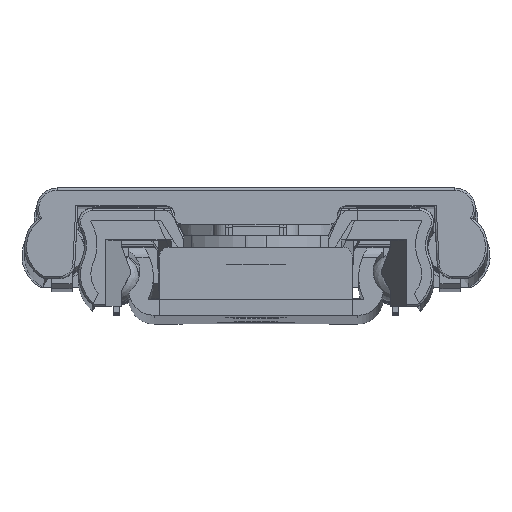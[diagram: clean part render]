
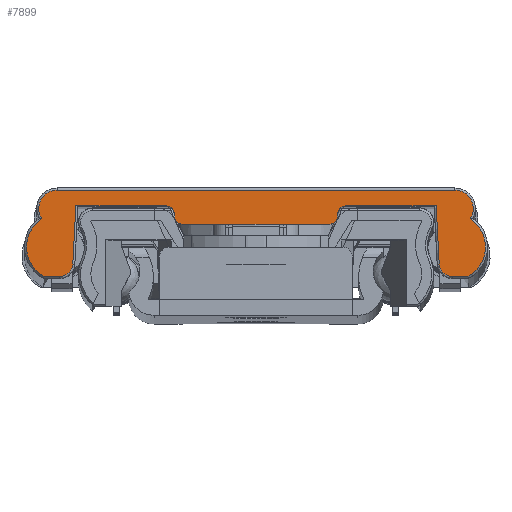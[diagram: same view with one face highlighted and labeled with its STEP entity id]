
A CAD part, top view. The second image highlights one B-rep face of the part: STEP entity #7899.
In plain terms, the highlighted planar face has unit normal (0, 0, 1) as drawn and (0, 0, -1) by its records, which use the part's own axes.
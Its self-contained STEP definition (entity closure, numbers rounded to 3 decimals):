
#7277=CARTESIAN_POINT('',(38.9,-13.718,0.0));
#7278=VERTEX_POINT('',#7277);
#7296=CARTESIAN_POINT('',(38.6,-8.,0.0));
#7297=VERTEX_POINT('',#7296);
#7305=CARTESIAN_POINT('',(38.6,-8.,0.0));
#7306=DIRECTION('',(0.052,-0.999,0.0));
#7307=VECTOR('',#7306,5.726);
#7308=LINE('',#7305,#7307);
#7309=EDGE_CURVE('',#7297,#7278,#7308,.T.);
#7319=CARTESIAN_POINT('',(40.198,-14.95,0.0));
#7320=VERTEX_POINT('',#7319);
#7338=CARTESIAN_POINT('',(40.198,-13.65,0.0));
#7339=DIRECTION('',(0.0,0.0,1.));
#7340=DIRECTION('',(-0.688,-0.725,0.0));
#7341=AXIS2_PLACEMENT_3D('',#7338,#7339,#7340);
#7342=CIRCLE('',#7341,1.3);
#7343=EDGE_CURVE('',#7278,#7320,#7342,.T.);
#7360=CARTESIAN_POINT('',(41.725,-14.95,0.0));
#7361=VERTEX_POINT('',#7360);
#7362=CARTESIAN_POINT('',(40.198,-14.95,0.0));
#7363=DIRECTION('',(1.0,0.0,0.0));
#7364=VECTOR('',#7363,1.527);
#7365=LINE('',#7362,#7364);
#7366=EDGE_CURVE('',#7320,#7361,#7365,.T.);
#7393=CARTESIAN_POINT('',(41.932,-9.272,0.0));
#7394=VERTEX_POINT('',#7393);
#7395=CARTESIAN_POINT('',(40.15,-12.05,0.0));
#7396=DIRECTION('',(0.0,0.0,1.));
#7397=DIRECTION('',(0.997,-0.072,0.0));
#7398=AXIS2_PLACEMENT_3D('',#7395,#7396,#7397);
#7399=CIRCLE('',#7398,3.3);
#7400=EDGE_CURVE('',#7361,#7394,#7399,.T.);
#7429=CARTESIAN_POINT('',(40.45,-6.45,0.0));
#7430=VERTEX_POINT('',#7429);
#7440=CARTESIAN_POINT('',(40.45,-8.25,0.0));
#7441=DIRECTION('',(0.0,0.0,1.0));
#7442=DIRECTION('',(0.861,0.509,0.0));
#7443=AXIS2_PLACEMENT_3D('',#7440,#7441,#7442);
#7444=CIRCLE('',#7443,1.8);
#7445=EDGE_CURVE('',#7394,#7430,#7444,.T.);
#7455=CARTESIAN_POINT('',(1.35,-6.45,0.0));
#7456=VERTEX_POINT('',#7455);
#7466=CARTESIAN_POINT('',(40.45,-6.45,0.0));
#7467=DIRECTION('',(-1.0,0.0,0.0));
#7468=VECTOR('',#7467,39.1);
#7469=LINE('',#7466,#7468);
#7470=EDGE_CURVE('',#7430,#7456,#7469,.T.);
#7490=CARTESIAN_POINT('',(-0.131,-9.272,0.0));
#7491=VERTEX_POINT('',#7490);
#7492=CARTESIAN_POINT('',(1.35,-8.25,0.0));
#7493=DIRECTION('',(0.0,0.0,1.0));
#7494=DIRECTION('',(-0.861,0.509,0.0));
#7495=AXIS2_PLACEMENT_3D('',#7492,#7493,#7494);
#7496=CIRCLE('',#7495,1.8);
#7497=EDGE_CURVE('',#7456,#7491,#7496,.T.);
#7524=CARTESIAN_POINT('',(0.075,-14.95,0.0));
#7525=VERTEX_POINT('',#7524);
#7526=CARTESIAN_POINT('',(1.65,-12.05,0.0));
#7527=DIRECTION('',(0.0,0.0,1.0));
#7528=DIRECTION('',(-0.997,-0.072,0.0));
#7529=AXIS2_PLACEMENT_3D('',#7526,#7527,#7528);
#7530=CIRCLE('',#7529,3.3);
#7531=EDGE_CURVE('',#7491,#7525,#7530,.T.);
#7566=CARTESIAN_POINT('',(1.602,-14.95,0.0));
#7567=VERTEX_POINT('',#7566);
#7577=CARTESIAN_POINT('',(0.075,-14.95,0.0));
#7578=DIRECTION('',(1.0,0.0,0.0));
#7579=VECTOR('',#7578,1.527);
#7580=LINE('',#7577,#7579);
#7581=EDGE_CURVE('',#7525,#7567,#7580,.T.);
#7591=CARTESIAN_POINT('',(2.9,-13.718,0.0));
#7592=VERTEX_POINT('',#7591);
#7610=CARTESIAN_POINT('',(1.602,-13.65,0.0));
#7611=DIRECTION('',(0.0,0.0,1.0));
#7612=DIRECTION('',(0.688,-0.725,0.0));
#7613=AXIS2_PLACEMENT_3D('',#7610,#7611,#7612);
#7614=CIRCLE('',#7613,1.3);
#7615=EDGE_CURVE('',#7567,#7592,#7614,.T.);
#7625=CARTESIAN_POINT('',(3.2,-8.,0.0));
#7626=VERTEX_POINT('',#7625);
#7643=CARTESIAN_POINT('',(2.9,-13.718,0.0));
#7644=DIRECTION('',(0.052,0.999,0.0));
#7645=VECTOR('',#7644,5.726);
#7646=LINE('',#7643,#7645);
#7647=EDGE_CURVE('',#7592,#7626,#7646,.T.);
#7774=CARTESIAN_POINT('',(28.1,-9.8,0.0));
#7775=VERTEX_POINT('',#7774);
#7782=CARTESIAN_POINT('',(28.9,-9.,0.0));
#7783=VERTEX_POINT('',#7782);
#7784=CARTESIAN_POINT('',(28.1,-9.0,0.0));
#7785=DIRECTION('',(0.0,0.0,1.0));
#7786=DIRECTION('',(0.707,-0.707,0.0));
#7787=AXIS2_PLACEMENT_3D('',#7784,#7785,#7786);
#7788=CIRCLE('',#7787,0.8);
#7789=EDGE_CURVE('',#7775,#7783,#7788,.T.);
#7806=CARTESIAN_POINT('',(28.9,-8.8,0.0));
#7807=VERTEX_POINT('',#7806);
#7808=CARTESIAN_POINT('',(28.9,-9.,0.0));
#7809=DIRECTION('',(0.0,1.0,0.0));
#7810=VECTOR('',#7809,0.2);
#7811=LINE('',#7808,#7810);
#7812=EDGE_CURVE('',#7783,#7807,#7811,.T.);
#7824=CARTESIAN_POINT('',(20.9,-8.942,0.0));
#7825=DIRECTION('',(0.0,0.0,1.0));
#7826=DIRECTION('',(1.0,0.0,0.0));
#7827=AXIS2_PLACEMENT_3D('',#7824,#7825,#7826);
#7828=PLANE('',#7827);
#7829=CARTESIAN_POINT('',(29.7,-8.,0.0));
#7830=VERTEX_POINT('',#7829);
#7831=CARTESIAN_POINT('',(29.7,-8.,0.0));
#7832=DIRECTION('',(1.0,0.0,0.0));
#7833=VECTOR('',#7832,8.9);
#7834=LINE('',#7831,#7833);
#7835=EDGE_CURVE('',#7830,#7297,#7834,.T.);
#7836=ORIENTED_EDGE('',*,*,#7835,.F.);
#7837=CARTESIAN_POINT('',(29.7,-8.8,0.0));
#7838=DIRECTION('',(0.0,0.0,-1.0));
#7839=DIRECTION('',(-0.707,0.707,0.0));
#7840=AXIS2_PLACEMENT_3D('',#7837,#7838,#7839);
#7841=CIRCLE('',#7840,0.8);
#7842=EDGE_CURVE('',#7807,#7830,#7841,.T.);
#7843=ORIENTED_EDGE('',*,*,#7842,.F.);
#7844=ORIENTED_EDGE('',*,*,#7812,.F.);
#7845=ORIENTED_EDGE('',*,*,#7789,.F.);
#7846=CARTESIAN_POINT('',(13.7,-9.8,0.0));
#7847=VERTEX_POINT('',#7846);
#7848=CARTESIAN_POINT('',(13.7,-9.8,0.0));
#7849=DIRECTION('',(1.0,0.0,0.0));
#7850=VECTOR('',#7849,14.4);
#7851=LINE('',#7848,#7850);
#7852=EDGE_CURVE('',#7847,#7775,#7851,.T.);
#7853=ORIENTED_EDGE('',*,*,#7852,.F.);
#7854=CARTESIAN_POINT('',(12.9,-9.,0.0));
#7855=VERTEX_POINT('',#7854);
#7856=CARTESIAN_POINT('',(13.7,-9.,0.0));
#7857=DIRECTION('',(0.0,0.0,1.));
#7858=DIRECTION('',(-0.707,-0.707,0.0));
#7859=AXIS2_PLACEMENT_3D('',#7856,#7857,#7858);
#7860=CIRCLE('',#7859,0.8);
#7861=EDGE_CURVE('',#7855,#7847,#7860,.T.);
#7862=ORIENTED_EDGE('',*,*,#7861,.F.);
#7863=CARTESIAN_POINT('',(12.9,-8.8,0.0));
#7864=VERTEX_POINT('',#7863);
#7865=CARTESIAN_POINT('',(12.9,-8.8,0.0));
#7866=DIRECTION('',(0.0,-1.0,0.0));
#7867=VECTOR('',#7866,0.2);
#7868=LINE('',#7865,#7867);
#7869=EDGE_CURVE('',#7864,#7855,#7868,.T.);
#7870=ORIENTED_EDGE('',*,*,#7869,.F.);
#7871=CARTESIAN_POINT('',(12.1,-8.0,0.0));
#7872=VERTEX_POINT('',#7871);
#7873=CARTESIAN_POINT('',(12.1,-8.8,0.0));
#7874=DIRECTION('',(0.0,0.0,-1.0));
#7875=DIRECTION('',(0.707,0.707,0.0));
#7876=AXIS2_PLACEMENT_3D('',#7873,#7874,#7875);
#7877=CIRCLE('',#7876,0.8);
#7878=EDGE_CURVE('',#7872,#7864,#7877,.T.);
#7879=ORIENTED_EDGE('',*,*,#7878,.F.);
#7880=CARTESIAN_POINT('',(3.2,-8.,0.0));
#7881=DIRECTION('',(1.0,0.0,0.0));
#7882=VECTOR('',#7881,8.9);
#7883=LINE('',#7880,#7882);
#7884=EDGE_CURVE('',#7626,#7872,#7883,.T.);
#7885=ORIENTED_EDGE('',*,*,#7884,.F.);
#7886=ORIENTED_EDGE('',*,*,#7647,.F.);
#7887=ORIENTED_EDGE('',*,*,#7615,.F.);
#7888=ORIENTED_EDGE('',*,*,#7581,.F.);
#7889=ORIENTED_EDGE('',*,*,#7531,.F.);
#7890=ORIENTED_EDGE('',*,*,#7497,.F.);
#7891=ORIENTED_EDGE('',*,*,#7470,.F.);
#7892=ORIENTED_EDGE('',*,*,#7445,.F.);
#7893=ORIENTED_EDGE('',*,*,#7400,.F.);
#7894=ORIENTED_EDGE('',*,*,#7366,.F.);
#7895=ORIENTED_EDGE('',*,*,#7343,.F.);
#7896=ORIENTED_EDGE('',*,*,#7309,.F.);
#7897=EDGE_LOOP('',(#7836,#7843,#7844,#7845,#7853,#7862,#7870,#7879,#7885,#7886,#7887,#7888,#7889,#7890,#7891,#7892,#7893,#7894,#7895,#7896));
#7898=FACE_OUTER_BOUND('',#7897,.T.);
#7899=ADVANCED_FACE('',(#7898),#7828,.F.);
